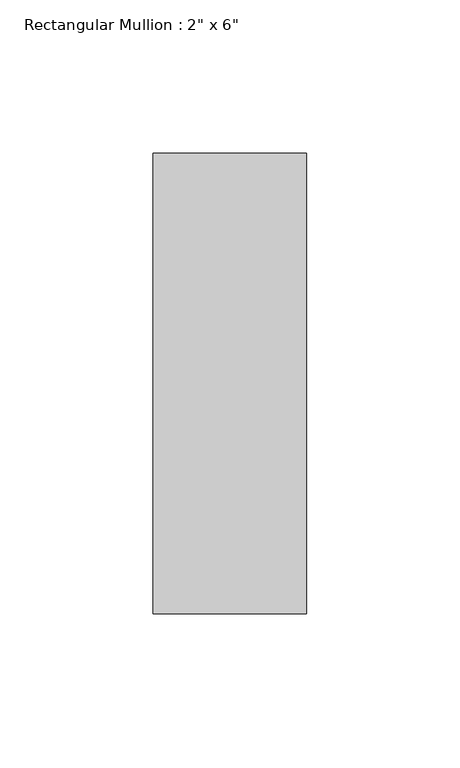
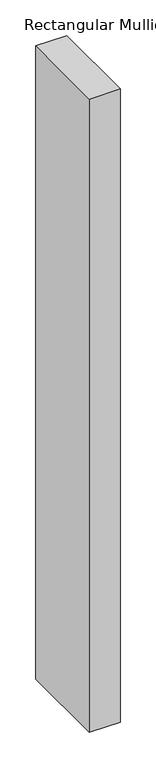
"""IFC4 building model written with IfcOpenShell, lengths in millimetres: member geometry."""

from ifc_helpers import new_model, si_unit, frame, origin, place, context, project, spatial, polyline, outline, extrude, source, transform, mapped, element, save


def member_2a6e6636(model_context):
    return source(origin(), model_context, "Body", "SweptSolid", [
        extrude(outline(polyline([(25.0, 0.0), (25.0, -150.0), (-25.0, -150.0), (-25.0, 0.0), (25.0, 0.0)])), frame((0.0, 0.0, -1082.740704), z_axis=(0.0, 0.0, 1.0), x_axis=(1.0, 0.0, 0.0)), (0.0, 0.0, 1.0), 1082.740704),
    ])


if __name__ == "__main__":
    model = new_model("IFC4")
    model_context = context("Model", 3, world=origin())
    ifc_project = project(units=[si_unit("LENGTHUNIT", "METRE", prefix="MILLI")], contexts=[model_context])
    site = spatial("IfcSite", under=ifc_project)
    building = spatial("IfcBuilding", under=site)
    placement = place(None, origin())
    member_shape = member_2a6e6636(model_context)
    element("IfcMember", 1, ObjectType="Rectangular Mullion : 2\" x 6\"", at=placement, inside=building, context=model_context, shape_type="MappedRepresentation", body=[
        mapped(member_shape, transform((0.0, 0.0, 0.0), x_axis=(1.0, 0.0, 0.0), y_axis=(0.0, 1.0, 0.0), z_axis=(0.0, 0.0, 1.0))),
    ])
    save(model, "model.ifc")
